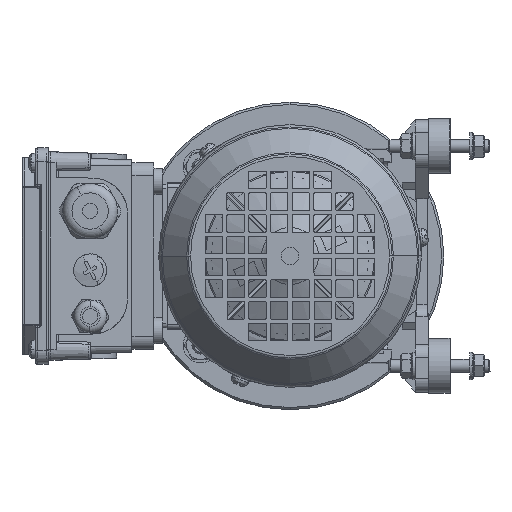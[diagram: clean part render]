
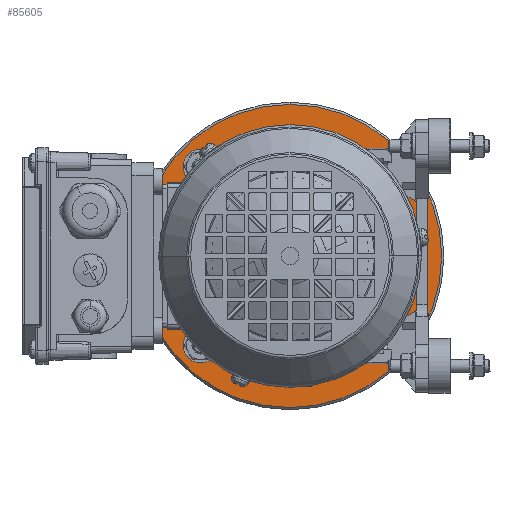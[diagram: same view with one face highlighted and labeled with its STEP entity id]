
A CAD part, front view. The second image highlights one B-rep face of the part: STEP entity #85605.
In plain terms, the highlighted planar face has unit normal (0, -1, 0).
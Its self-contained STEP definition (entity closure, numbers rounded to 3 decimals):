
#16131=CARTESIAN_POINT('',(-0.015,-299.6,
0.));
#16132=DIRECTION('',(0.,1.,0.));
#16133=DIRECTION('',(0.,0.,-1.));
#16134=AXIS2_PLACEMENT_3D('',#16131,#16132,#16133);
#16139=CARTESIAN_POINT('',(-0.015,-299.6,
0.));
#16140=DIRECTION('',(0.,1.,0.));
#16141=DIRECTION('',(0.,0.,1.));
#16142=AXIS2_PLACEMENT_3D('',#16139,#16140,#16141);
#16147=CARTESIAN_POINT('',(-0.015,-299.6,
0.));
#16148=DIRECTION('',(0.,-1.,0.));
#16149=DIRECTION('',(0.,0.,-1.));
#16150=AXIS2_PLACEMENT_3D('',#16147,#16148,#16149);
#16155=CARTESIAN_POINT('',(-0.015,-299.6,
0.));
#16156=DIRECTION('',(0.,-1.,0.));
#16157=DIRECTION('',(0.,0.,1.));
#16158=AXIS2_PLACEMENT_3D('',#16155,#16156,#16157);
#20404=CARTESIAN_POINT('',(40.669,-299.6,
-40.659));
#20405=DIRECTION('',(0.,-1.,0.));
#20406=DIRECTION('',(1.,0.,0.));
#20407=AXIS2_PLACEMENT_3D('',#20404,#20405,#20406);
#20412=CARTESIAN_POINT('',(40.669,-299.6,
-40.659));
#20413=DIRECTION('',(0.,-1.,0.));
#20414=DIRECTION('',(-1.,0.,0.));
#20415=AXIS2_PLACEMENT_3D('',#20412,#20413,#20414);
#21011=CARTESIAN_POINT('',(40.669,-299.6,
40.659));
#21012=DIRECTION('',(0.,-1.,0.));
#21013=DIRECTION('',(1.,0.,0.));
#21014=AXIS2_PLACEMENT_3D('',#21011,#21012,#21013);
#21019=CARTESIAN_POINT('',(40.669,-299.6,
40.659));
#21020=DIRECTION('',(0.,-1.,0.));
#21021=DIRECTION('',(-1.,0.,0.));
#21022=AXIS2_PLACEMENT_3D('',#21019,#21020,#21021);
#21618=CARTESIAN_POINT('',(-40.649,-299.6,
40.659));
#21619=DIRECTION('',(0.,-1.,0.));
#21620=DIRECTION('',(1.,0.,0.));
#21621=AXIS2_PLACEMENT_3D('',#21618,#21619,#21620);
#21626=CARTESIAN_POINT('',(-40.649,-299.6,
40.659));
#21627=DIRECTION('',(0.,-1.,0.));
#21628=DIRECTION('',(-1.,0.,0.));
#21629=AXIS2_PLACEMENT_3D('',#21626,#21627,#21628);
#22225=CARTESIAN_POINT('',(-40.649,-299.6,
-40.659));
#22226=DIRECTION('',(0.,-1.,0.));
#22227=DIRECTION('',(1.,0.,0.));
#22228=AXIS2_PLACEMENT_3D('',#22225,#22226,#22227);
#22233=CARTESIAN_POINT('',(-40.649,-299.6,
-40.659));
#22234=DIRECTION('',(0.,-1.,0.));
#22235=DIRECTION('',(-1.,0.,0.));
#22236=AXIS2_PLACEMENT_3D('',#22233,#22234,#22235);
#70930=CARTESIAN_POINT('',(-0.03,-299.6,
48.5));
#70931=VERTEX_POINT('',#70930);
#70932=CARTESIAN_POINT('',(0.,-299.6,
-48.5));
#70933=VERTEX_POINT('',#70932);
#70934=CARTESIAN_POINT('',(0.006,-299.6,
-69.));
#70935=CARTESIAN_POINT('',(-0.036,-299.6,
69.));
#70936=VERTEX_POINT('',#70934);
#70937=VERTEX_POINT('',#70935);
#72383=CARTESIAN_POINT('',(48.669,-299.6,
-40.659));
#72384=CARTESIAN_POINT('',(32.669,-299.6,
-40.659));
#72385=VERTEX_POINT('',#72383);
#72386=VERTEX_POINT('',#72384);
#72387=CARTESIAN_POINT('',(48.669,-299.6,
40.659));
#72388=CARTESIAN_POINT('',(32.669,-299.6,
40.659));
#72389=VERTEX_POINT('',#72387);
#72390=VERTEX_POINT('',#72388);
#72391=CARTESIAN_POINT('',(-32.649,-299.6,
40.659));
#72392=CARTESIAN_POINT('',(-48.649,-299.6,
40.659));
#72393=VERTEX_POINT('',#72391);
#72394=VERTEX_POINT('',#72392);
#72403=CARTESIAN_POINT('',(-32.649,-299.6,
-40.659));
#72404=CARTESIAN_POINT('',(-48.649,-299.6,
-40.659));
#72405=VERTEX_POINT('',#72403);
#72406=VERTEX_POINT('',#72404);
#85566=CARTESIAN_POINT('',(-0.037,-299.6,
70.));
#85567=DIRECTION('',(0.,-1.,0.));
#85568=DIRECTION('',(0.,0.,1.));
#85569=AXIS2_PLACEMENT_3D('',#85566,#85567,#85568);
#85570=PLANE('',#85569);
#85572=ORIENTED_EDGE('',*,*,#85571,.T.);
#85574=ORIENTED_EDGE('',*,*,#85573,.T.);
#85575=EDGE_LOOP('',(#85572,#85574));
#85576=FACE_OUTER_BOUND('',#85575,.F.);
#85577=ORIENTED_EDGE('',*,*,#85545,.T.);
#85578=ORIENTED_EDGE('',*,*,#85559,.T.);
#85579=EDGE_LOOP('',(#85577,#85578));
#85580=FACE_BOUND('',#85579,.F.);
#85582=ORIENTED_EDGE('',*,*,#85581,.T.);
#85584=ORIENTED_EDGE('',*,*,#85583,.T.);
#85585=EDGE_LOOP('',(#85582,#85584));
#85586=FACE_BOUND('',#85585,.F.);
#85588=ORIENTED_EDGE('',*,*,#85587,.T.);
#85590=ORIENTED_EDGE('',*,*,#85589,.T.);
#85591=EDGE_LOOP('',(#85588,#85590));
#85592=FACE_BOUND('',#85591,.F.);
#85594=ORIENTED_EDGE('',*,*,#85593,.T.);
#85596=ORIENTED_EDGE('',*,*,#85595,.T.);
#85597=EDGE_LOOP('',(#85594,#85596));
#85598=FACE_BOUND('',#85597,.F.);
#85600=ORIENTED_EDGE('',*,*,#85599,.T.);
#85602=ORIENTED_EDGE('',*,*,#85601,.T.);
#85603=EDGE_LOOP('',(#85600,#85602));
#85604=FACE_BOUND('',#85603,.F.);
#16135=CIRCLE('',#16134,69.);
#16143=CIRCLE('',#16142,69.);
#16151=CIRCLE('',#16150,48.5);
#16159=CIRCLE('',#16158,48.5);
#20408=CIRCLE('',#20407,8.);
#20416=CIRCLE('',#20415,8.);
#21015=CIRCLE('',#21014,8.);
#21023=CIRCLE('',#21022,8.);
#21622=CIRCLE('',#21621,8.);
#21630=CIRCLE('',#21629,8.);
#22229=CIRCLE('',#22228,8.);
#22237=CIRCLE('',#22236,8.);
#85545=EDGE_CURVE('',#70933,#70931,#16151,.T.);
#85559=EDGE_CURVE('',#70931,#70933,#16159,.T.);
#85571=EDGE_CURVE('',#70936,#70937,#16135,.T.);
#85573=EDGE_CURVE('',#70937,#70936,#16143,.T.);
#85581=EDGE_CURVE('',#72385,#72386,#20408,.T.);
#85583=EDGE_CURVE('',#72386,#72385,#20416,.T.);
#85587=EDGE_CURVE('',#72389,#72390,#21015,.T.);
#85589=EDGE_CURVE('',#72390,#72389,#21023,.T.);
#85593=EDGE_CURVE('',#72393,#72394,#21622,.T.);
#85595=EDGE_CURVE('',#72394,#72393,#21630,.T.);
#85599=EDGE_CURVE('',#72405,#72406,#22229,.T.);
#85601=EDGE_CURVE('',#72406,#72405,#22237,.T.);
#85605=ADVANCED_FACE('',(#85576,#85580,#85586,#85592,#85598,#85604),#85570,.T.);
